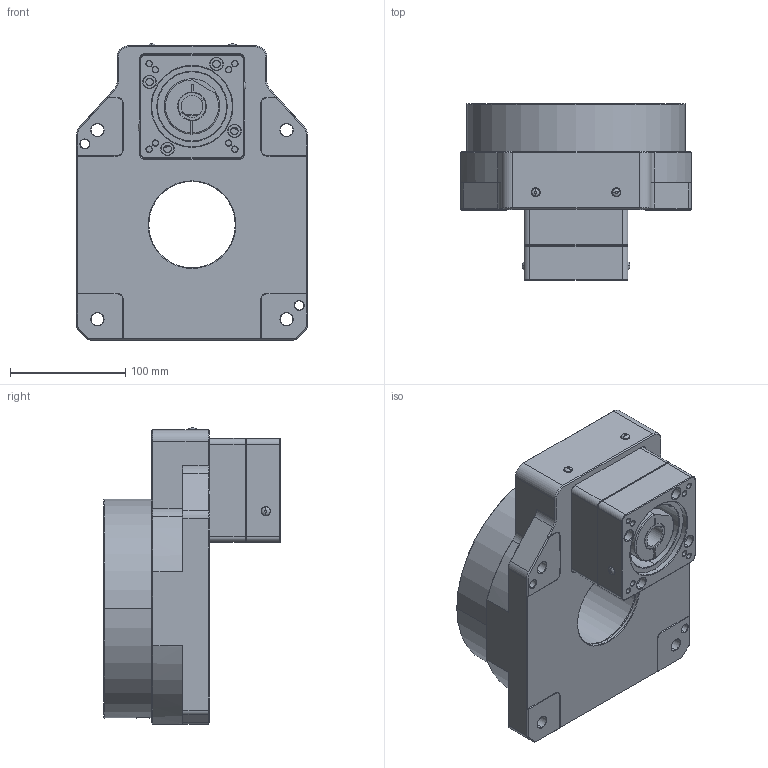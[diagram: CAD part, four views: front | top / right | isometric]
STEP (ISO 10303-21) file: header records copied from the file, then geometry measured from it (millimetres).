
FILE_DESCRIPTION (( 'STEP AP203' ), '1' );
FILE_NAME ('GSB275-10K-SV.STEP', '2017-09-26T07:58:35', ( 'IT毞諾' ), ( 'iTianKong.com' ), 'SwSTEP 2.0', 'SolidWorks 2015', '' );
FILE_SCHEMA (( 'CONFIG_CONTROL_DESIGN' ));
Length unit declared in the file: millimetre
Products named in the file (1): GSB275-10K-SV
Bounding box: 200 x 153 x 256.6 mm (x, y, z)
Surface area: 248218.3 mm2 (no closed solid volume)
Topology: 0 solids, 15 shells, 450 faces, 1162 edges, 724 vertices
Faces by surface type: cylinder 170, cone 137, plane 98, torus 44, bspline 1
Entity records: 14329 total; most frequent: CARTESIAN_POINT 3140, DIRECTION 2534, ORIENTED_EDGE 2089, EDGE_CURVE 1154, AXIS2_PLACEMENT_3D 1010, VERTEX_POINT 724, CIRCLE 560, EDGE_LOOP 520
